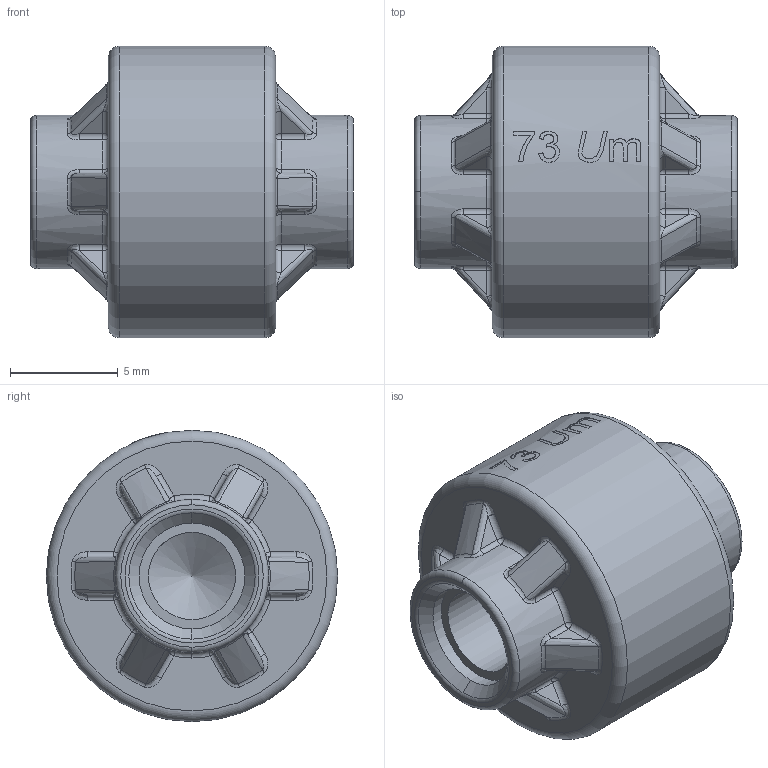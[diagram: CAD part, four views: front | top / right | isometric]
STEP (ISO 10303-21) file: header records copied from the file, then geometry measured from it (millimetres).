
FILE_DESCRIPTION(/* description */ ('SolidWorks IGES file using NURBS representation for surfaces '),/* implementation_level */ '2;1');
FILE_NAME(/* name */ 'K:\Normteile INVENTOR\Air-Logic\Filters\F-970-73.IGS.ipt.stp',/* time_stamp */ '2020-05-27T10:40:17+02:00',/* author */ ('amarsh'),/* organization */ (''),/* preprocessor_version */ 'ST-DEVELOPER v18',/* originating_system */ 'Autodesk Inventor 2020',/* authorisation */ '');
FILE_SCHEMA (('AUTOMOTIVE_DESIGN { 1 0 10303 214 3 1 1 }'));
Length unit declared in the file: millimetre
Products named in the file (1): F-970-73.IGS
Bounding box: 14.95 x 13.5 x 13.5 mm (x, y, z)
Volume: 1244.5 mm3; surface area: 911.3 mm2
Topology: 1 solids, 1 shells, 309 faces, 753 edges, 440 vertices
Faces by surface type: bspline 110, cylinder 63, plane 48, torus 46, sphere 24, cone 18
Full cylindrical faces by diameter (mm): 4.039 x2, 4.9 x2, 7.1 x2, 13.5 x1
Entity records: 16830 total; most frequent: CARTESIAN_POINT 9876, ORIENTED_EDGE 1474, DIRECTION 1277, EDGE_CURVE 737, AXIS2_PLACEMENT_3D 544, VERTEX_POINT 440, CIRCLE 330, EDGE_LOOP 319
